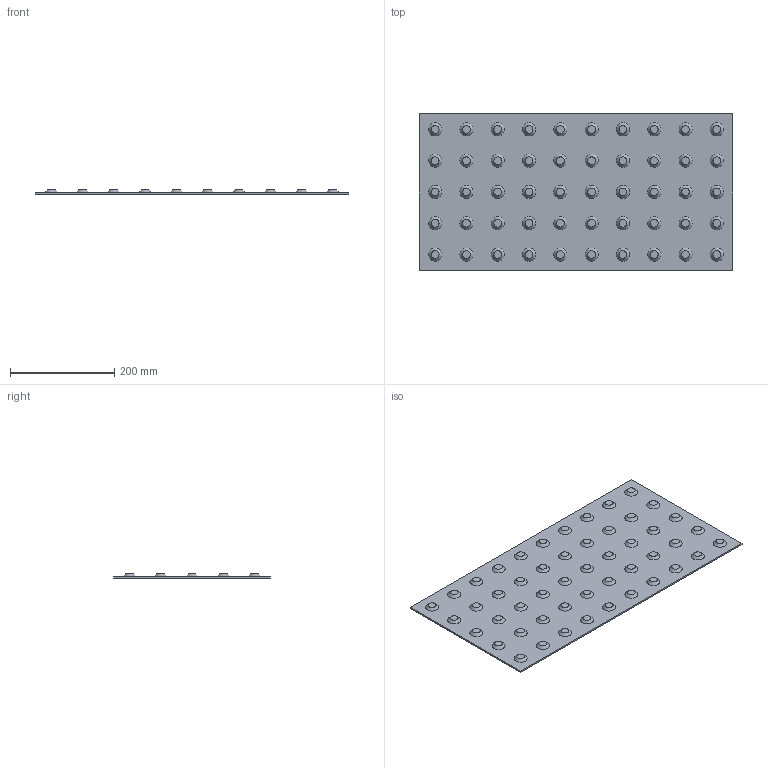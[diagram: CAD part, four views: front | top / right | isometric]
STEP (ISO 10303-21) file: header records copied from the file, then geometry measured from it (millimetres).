
FILE_DESCRIPTION(('FreeCAD Model'),'2;1');
FILE_NAME('Open CASCADE Shape Model','2026-10-04T02:30:13',('FreeCAD'),( 'FreeCAD'),'Open CASCADE STEP processor 7.8','FreeCAD','Unknown');
FILE_SCHEMA(('AUTOMOTIVE_DESIGN { 1 0 10303 214 1 1 1 1 }'));
Length unit declared in the file: millimetre
Products named in the file (1): Open CASCADE STEP translator 7.8 3
Bounding box: 600 x 300 x 8 mm (x, y, z)
Volume: 620176.1 mm3; surface area: 371906.5 mm2
Topology: 1 solids, 1 shells, 106 faces, 162 edges, 108 vertices
Faces by surface type: plane 56, cone 50
Entity records: 2416 total; most frequent: DIRECTION 476, CARTESIAN_POINT 377, ORIENTED_EDGE 324, AXIS2_PLACEMENT_3D 207, EDGE_CURVE 162, FACE_BOUND 156, EDGE_LOOP 156, VERTEX_POINT 108
